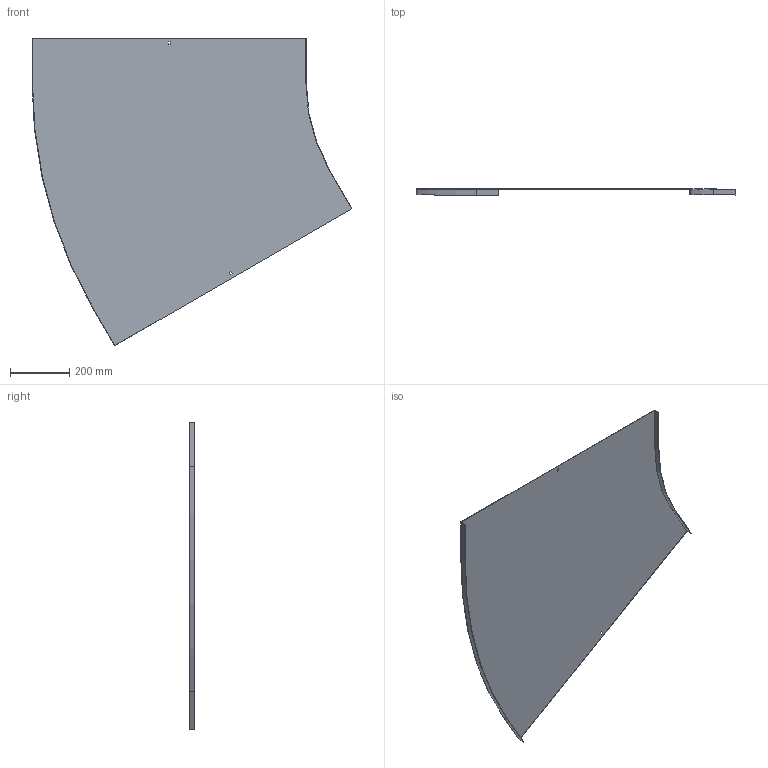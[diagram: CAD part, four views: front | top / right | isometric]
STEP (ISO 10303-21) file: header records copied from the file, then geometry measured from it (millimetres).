
FILE_DESCRIPTION (( 'STEP AP214' ), '1' );
FILE_NAME ('12N6P900.step', '2025-02-21T13:34:45', ( '' ), ( '' ), 'SwSTEP 2.0', 'SolidWorks 2023', '' );
FILE_SCHEMA (( 'AUTOMOTIVE_DESIGN' ));
Length unit declared in the file: millimetre
Products named in the file (1): 12N6P900
Bounding box: 1076.84 x 20 x 1035.65 mm (x, y, z)
Volume: 1223505.8 mm3; surface area: 1636863.5 mm2
Topology: 1 solids, 1 shells, 26 faces, 72 edges, 48 vertices
Faces by surface type: plane 22, cylinder 4
Entity records: 855 total; most frequent: CARTESIAN_POINT 147, ORIENTED_EDGE 144, DIRECTION 134, EDGE_CURVE 72, LINE 64, VECTOR 64, VERTEX_POINT 48, AXIS2_PLACEMENT_3D 35
